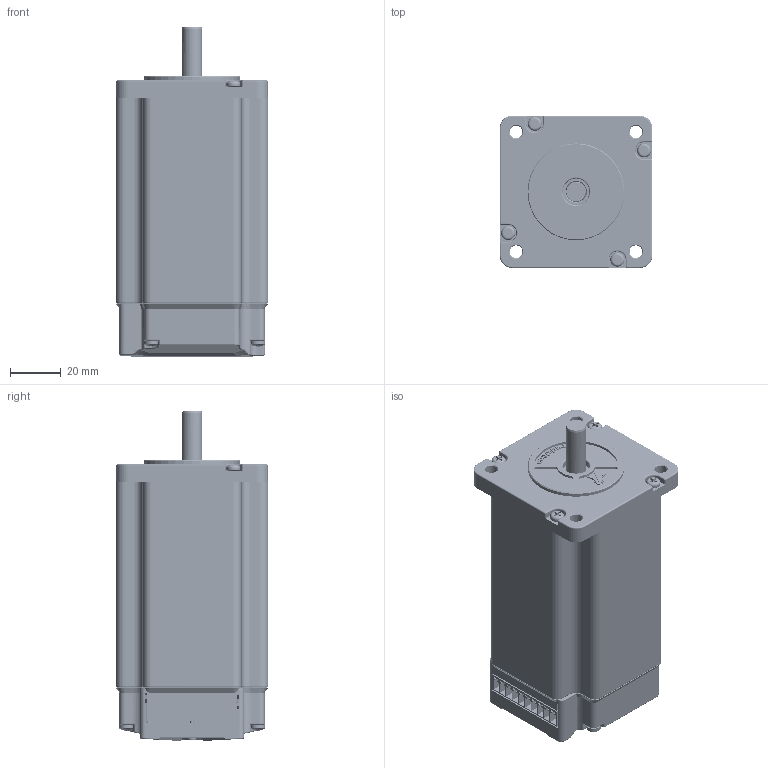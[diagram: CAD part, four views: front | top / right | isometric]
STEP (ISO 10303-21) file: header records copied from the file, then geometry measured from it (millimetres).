
FILE_DESCRIPTION((''),'2;1');
FILE_NAME('ICL57-13_ASM','2022-03-14T15:39:38',('Administrator'),(''),'CREO PARAMETRIC BY PTC INC, 2019224','CREO PARAMETRIC BY PTC INC, 2019224','');
FILE_SCHEMA(('CONFIG_CONTROL_DESIGN','GEOMETRIC_VALIDATION_PROPERTIES_MIM'));
Products named in the file (27): _57HS056SF055M-01; ZJ_ICL57_4; PCB_ICL57_4; HEADER_2_0_4X_1; 1_27CB_1; PCB_ICL57_ASM_2_ASM_ASM_ASM; ____-3-6_1; BREP_2_1; PRT0003_5; ASM_ICL57_ASM_19_ASM_ASM_ASM; ICL57_2_ASM_ASM; AL_ICL57_22_14; 57HS056SF055M-01_ASM_ASM; M3-81_1; DZTX60HSDJ65_5_1; DG60HSD-005-S01DY_1_2_3_4; 608ZZ_1_2_3_4_5; CG37-11_5-1_5_1_2_3; ZZTX60HSDJ13_5_1; GCP32_5-12_5-1_8_1_2_3_4; ZHS86D_1; ZZ60HS086_1_ASM; DG60HSD-004-S01DY_1; CGCGT_1_2_3_4_5; 60HS086DF055M-01_ASM; ICLD57CM31-B15_ASM; ICL57-13_ASM
Assembly tree (37 placements, depth 6):
  ICL57-13_ASM
    57HS056SF055M-01_ASM_ASM
      _57HS056SF055M-01
      ICL57_2_ASM_ASM
        ASM_ICL57_ASM_19_ASM_ASM_ASM
          ZJ_ICL57_4
          PCB_ICL57_ASM_2_ASM_ASM_ASM
            PCB_ICL57_4
            HEADER_2_0_4X_1
            1_27CB_1
          ____-3-6_1  x4
          BREP_2_1
          PRT0003_5
      AL_ICL57_22_14
    ICLD57CM31-B15_ASM
      60HS086DF055M-01_ASM
        M3-81_1  x4
        DZTX60HSDJ65_5_1
        DG60HSD-005-S01DY_1_2_3_4
        ZZ60HS086_1_ASM
          608ZZ_1_2_3_4_5  x2
          CG37-11_5-1_5_1_2_3  x2
          ZZTX60HSDJ13_5_1  x4
          GCP32_5-12_5-1_8_1_2_3_4
          ZHS86D_1
        DG60HSD-004-S01DY_1
        CGCGT_1_2_3_4_5
Bounding box: 60 x 60 x 129.84 mm (x, y, z)
Volume: 219818.1 mm3; surface area: 150040.8 mm2
Topology: 29 solids, 29 shells, 5122 faces, 13506 edges, 8495 vertices
Faces by surface type: plane 1738, cylinder 1636, cone 1446, torus 113, bspline 90, extrusion 74, sphere 25
Entity records: 118766 total; most frequent: CARTESIAN_POINT 23534, ORIENTED_EDGE 15704, DIRECTION 15627, EDGE_CURVE 7852, PRESENTATION_STYLE_ASSIGNMENT 6407, STYLED_ITEM 6379, CURVE_STYLE 6366, AXIS2_PLACEMENT_3D 5315
